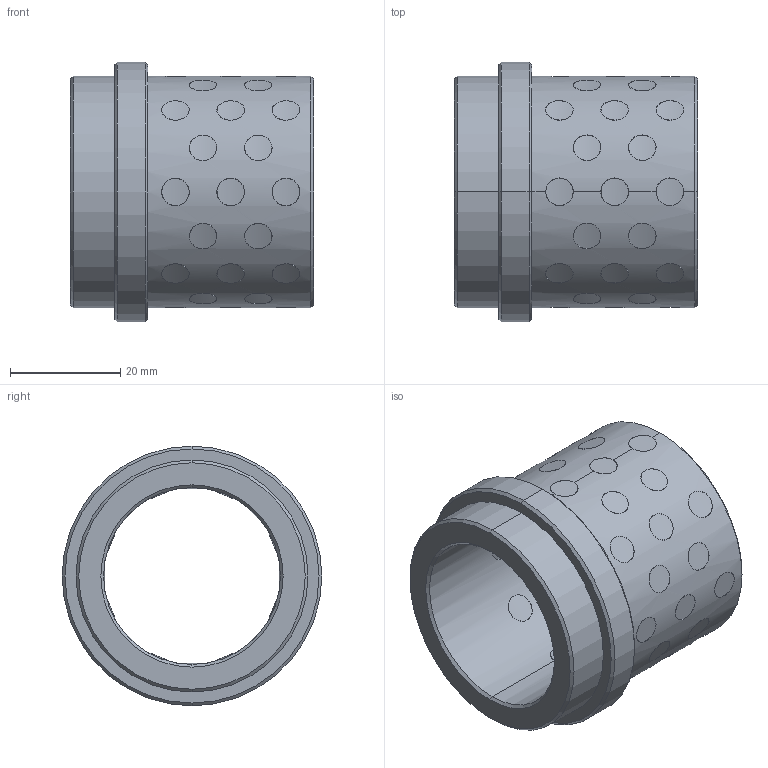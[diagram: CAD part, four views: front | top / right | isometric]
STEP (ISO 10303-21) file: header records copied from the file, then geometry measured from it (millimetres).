
FILE_DESCRIPTION((''),'2;1');
FILE_NAME('G31232036','2017-12-30T',('MANU'),(''),'PRO/ENGINEER BY PARAMETRIC TECHNOLOGY CORPORATION, 2012130','PRO/ENGINEER BY PARAMETRIC TECHNOLOGY CORPORATION, 2012130','');
FILE_SCHEMA(('CONFIG_CONTROL_DESIGN'));
Length unit declared in the file: millimetre
Products named in the file (1): G31232036
Bounding box: 44 x 47 x 47 mm (x, y, z)
Volume: 27496.2 mm3; surface area: 18210.8 mm2
Topology: 41 solids, 41 shells, 264 faces, 564 edges, 372 vertices
Faces by surface type: cylinder 248, cone 12, plane 4
Entity records: 12490 total; most frequent: CARTESIAN_POINT 7276, ORIENTED_EDGE 1128, DIRECTION 776, EDGE_CURVE 564, VERTEX_POINT 372, B_SPLINE_CURVE_WITH_KNOTS 344, EDGE_LOOP 336, AXIS2_PLACEMENT_3D 292
